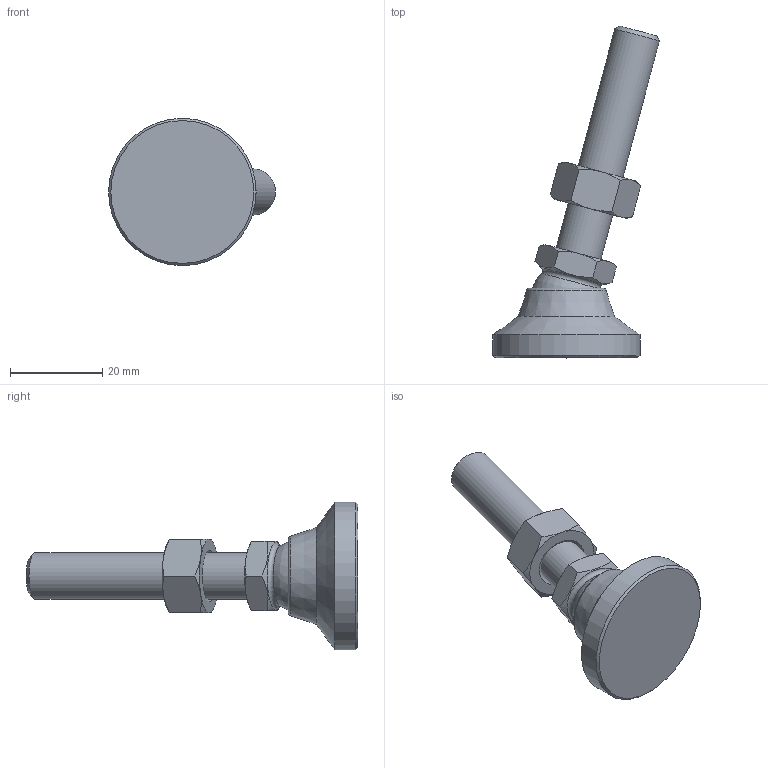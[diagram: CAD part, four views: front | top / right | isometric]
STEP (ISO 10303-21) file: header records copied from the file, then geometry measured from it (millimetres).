
FILE_DESCRIPTION( ( 'STEP AP214' ), ' ' );
FILE_NAME( 'O:/ganter_2015/teil_2/2_5/gn343_2/gn343_2_os/Levelling foot with threaded stud GN 343.2-32-M10-50-OS-(-15).stp', '2015-10-26T09:06:57', ( '' ), ( '' ), ' ', 'PARTsolutions', ' ' );
FILE_SCHEMA( ( 'AUTOMOTIVE_DESIGN { 1 0 10303 214 1 1 1 1 }' ) );
Length unit declared in the file: millimetre
Products named in the file (4): Levelling foot with threaded stud GN 343.2-32-M10-50-OS-(-15); _Levelling foot with threaded stud GN 343.2-32-M10-50-OS-(-15)_foot; _Levelling foot with threaded stud GN 343.2-32-M10-50-OS-(-15)_screw; _Stainless Steel-Levelling feet GN 343.2-32-M10-50-OS-(-15)_nut
Assembly tree (3 placements, depth 2):
  Levelling foot with threaded stud GN 343.2-32-M10-50-OS-(-15)
    _Levelling foot with threaded stud GN 343.2-32-M10-50-OS-(-15)_foot
    _Levelling foot with threaded stud GN 343.2-32-M10-50-OS-(-15)_screw
    _Stainless Steel-Levelling feet GN 343.2-32-M10-50-OS-(-15)_nut
Bounding box: 36.19 x 72.01 x 32 mm (x, y, z)
Volume: 14646.8 mm3; surface area: 6394 mm2
Topology: 3 solids, 3 shells, 50 faces, 107 edges, 63 vertices
Faces by surface type: cone 25, plane 18, cylinder 3, torus 2, sphere 2
Full cylindrical faces by diameter (mm): 8.376 x1, 10 x1, 32 x1
Entity records: 1874 total; most frequent: CARTESIAN_POINT 468, DIRECTION 188, ORIENTED_EDGE 176, AXIS2_PLACEMENT_3D 88, EDGE_CURVE 88, EDGE_LOOP 66, VERTEX_POINT 60, FACE_OUTER_BOUND 55
